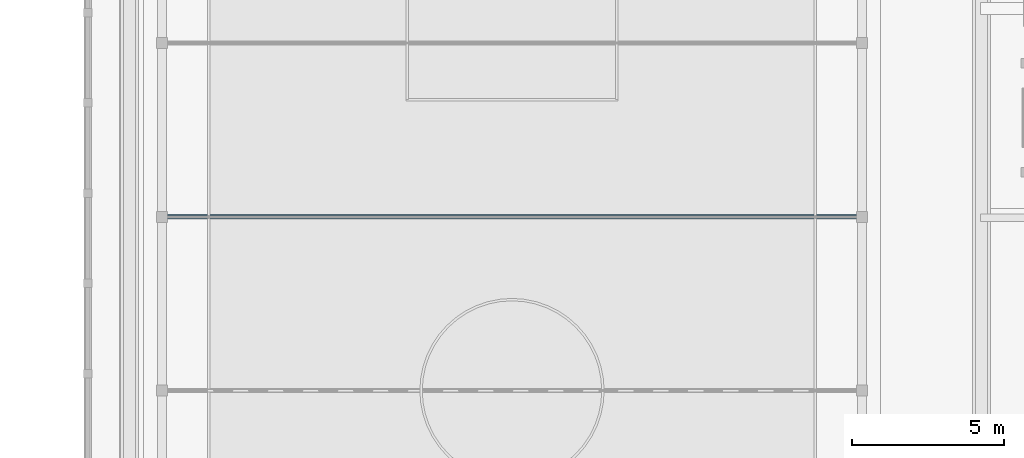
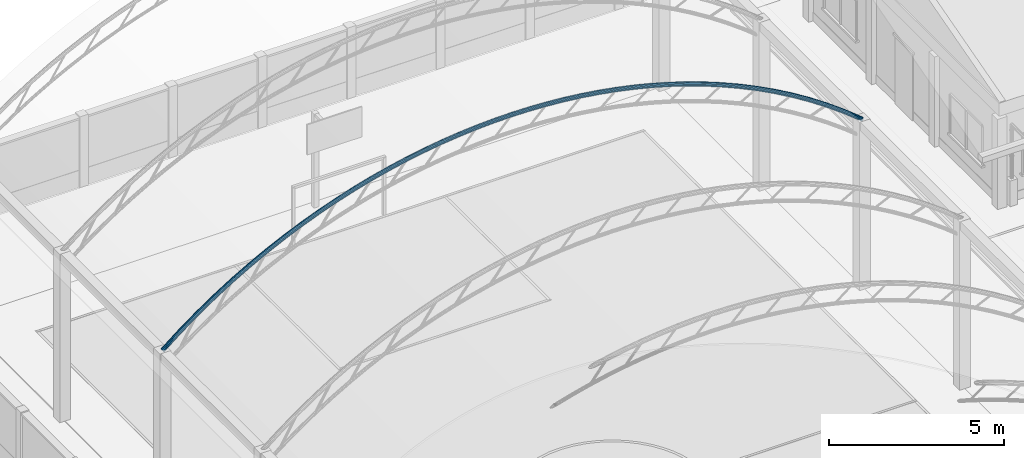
# One storey, part 27 of 177: 1 beam.
"""IFC4 building model written with IfcOpenShell, lengths in metres."""

from ifc_helpers import new_model, si_unit, origin, origin_with_axes, place, context, subcontext, project, spatial, triangles, element, save


model = new_model("IFC4")

# Units and contexts
model_context = context("Model", 3, precision=1e-05, world=origin_with_axes())
body_context = subcontext(model_context, "Body", "Model", "MODEL_VIEW")
ifc_project = project(units=[si_unit("LENGTHUNIT", "METRE"), si_unit("AREAUNIT", "SQUARE_METRE"), si_unit("VOLUMEUNIT", "CUBIC_METRE"), si_unit("PLANEANGLEUNIT", "RADIAN")], contexts=[model_context])

# Site, building, storey
site_placement = place(None, origin_with_axes())
site = spatial("IfcSite", under=ifc_project, at=site_placement, Name="Predio Los Mangos - Morales, San Martín", CompositionType="ELEMENT")
building_placement = place(site_placement, origin())
building = spatial("IfcBuilding", under=site, at=building_placement, Name="Hogar de Refugio Temporal", CompositionType="ELEMENT")
storey_placement = place(building_placement, origin())
storey = spatial("IfcBuildingStorey", under=building, at=storey_placement, Name="NIVEL 1 (NPT +0.00)", CompositionType="ELEMENT", Elevation=0.0)

# Beam
beam_placement = place(storey_placement, origin())
element("IfcBeam", 1, at=beam_placement, inside=storey, Name="arco", ObjectType="Viga", PredefinedType="BEAM", context=body_context, shape_type="Tessellation", body=[
    triangles([(3.4781, 115.594, 5.9773), (3.462, 115.5683, 5.9973), (3.4562, 115.5333, 6.0046), (3.462, 115.4983, 5.9973), (3.4781, 115.4727, 5.9773), (3.5, 115.4633, 5.95), (3.5219, 115.4727, 5.9227), (3.538, 115.4983, 5.9027), (3.5438, 115.5333, 5.8954), (3.538, 115.5683, 5.9027), (3.5219, 115.594, 5.9227), (3.5, 115.6033, 5.95), (4.0561, 115.594, 6.4418), (4.0405, 115.5683, 6.4621), (4.0348, 115.5333, 6.4695), (4.0405, 115.4983, 6.4621), (4.0561, 115.4727, 6.4418), (4.0775, 115.4633, 6.4141), (4.0989, 115.4727, 6.3864), (4.1145, 115.4983, 6.3661), (4.1202, 115.5333, 6.3586), (4.1145, 115.5683, 6.3661), (4.0989, 115.594, 6.3864), (4.0775, 115.6033, 6.4141), (4.6348, 115.594, 6.8694), (4.6199, 115.5683, 6.8903), (4.6145, 115.5333, 6.8979), (4.6199, 115.4983, 6.8903), (4.6348, 115.4727, 6.8694), (4.655, 115.4633, 6.8408), (4.6752, 115.4727, 6.8123), (4.6901, 115.4983, 6.7914), (4.6955, 115.5333, 6.7837), (4.6901, 115.5683, 6.7914), (4.6752, 115.594, 6.8123), (4.655, 115.6033, 6.8408), (5.2134, 115.594, 7.2627), (5.1994, 115.5683, 7.2841), (5.1943, 115.5333, 7.292), (5.1994, 115.4983, 7.2841), (5.2134, 115.4727, 7.2627), (5.2325, 115.4633, 7.2333), (5.2516, 115.4727, 7.204), (5.2656, 115.4983, 7.1826), (5.2707, 115.5333, 7.1747), (5.2656, 115.5683, 7.1826), (5.2516, 115.594, 7.204), (5.2325, 115.6033, 7.2333), (5.792, 115.594, 7.6243), (5.7788, 115.5683, 7.6463), (5.774, 115.5333, 7.6543), (5.7788, 115.4983, 7.6463), (5.792, 115.4727, 7.6243), (5.81, 115.4633, 7.5943), (5.828, 115.4727, 7.5643), (5.8412, 115.4983, 7.5423), (5.846, 115.5333, 7.5343), (5.8412, 115.5683, 7.5423), (5.828, 115.594, 7.5643), (5.81, 115.6033, 7.5943), (6.3706, 115.594, 7.9565), (6.3583, 115.5683, 7.979), (6.3538, 115.5333, 7.9872), (6.3583, 115.4983, 7.979), (6.3706, 115.4727, 7.9565), (6.3875, 115.4633, 7.9259), (6.4044, 115.4727, 7.8952), (6.4167, 115.4983, 7.8727), (6.4212, 115.5333, 7.8645), (6.4167, 115.5683, 7.8727), (6.4044, 115.594, 7.8952), (6.3875, 115.6033, 7.9259), (6.9493, 115.594, 8.2611), (6.9377, 115.5683, 8.284), (6.9335, 115.5333, 8.2923), (6.9377, 115.4983, 8.284), (6.9493, 115.4727, 8.2611), (6.965, 115.4633, 8.2298), (6.9807, 115.4727, 8.1986), (6.9923, 115.4983, 8.1757), (6.9965, 115.5333, 8.1673), (6.9923, 115.5683, 8.1757), (6.9807, 115.594, 8.1986), (6.965, 115.6033, 8.2298), (7.5279, 115.594, 8.5395), (7.5172, 115.5683, 8.5628), (7.5133, 115.5333, 8.5713), (7.5172, 115.4983, 8.5628), (7.5279, 115.4727, 8.5395), (7.5425, 115.4633, 8.5077), (7.5571, 115.4727, 8.4759), (7.5678, 115.4983, 8.4527), (7.5717, 115.5333, 8.4441), (7.5678, 115.5683, 8.4527), (7.5571, 115.594, 8.4759), (7.5425, 115.6033, 8.5077), (8.1065, 115.594, 8.7932), (8.0966, 115.5683, 8.8169), (8.093, 115.5333, 8.8255), (8.0966, 115.4983, 8.8169), (8.1065, 115.4727, 8.7932), (8.12, 115.4633, 8.7609), (8.1335, 115.4727, 8.7286), (8.1434, 115.4983, 8.705), (8.147, 115.5333, 8.6963), (8.1434, 115.5683, 8.705), (8.1335, 115.594, 8.7286), (8.12, 115.6033, 8.7609), (8.6851, 115.594, 9.0232), (8.6761, 115.5683, 9.0472), (8.6728, 115.5333, 9.056), (8.6761, 115.4983, 9.0472), (8.6851, 115.4727, 9.0232), (8.6975, 115.4633, 8.9905), (8.7099, 115.4727, 8.9578), (8.7189, 115.4983, 8.9338), (8.7222, 115.5333, 8.925), (8.7189, 115.5683, 8.9338), (8.7099, 115.594, 8.9578), (8.6975, 115.6033, 8.9905), (9.2638, 115.594, 9.2305), (9.2555, 115.5683, 9.2548), (9.2525, 115.5333, 9.2637), (9.2555, 115.4983, 9.2548), (9.2638, 115.4727, 9.2305), (9.275, 115.4633, 9.1974), (9.2862, 115.4727, 9.1642), (9.2945, 115.4983, 9.14), (9.2975, 115.5333, 9.1311), (9.2945, 115.5683, 9.14), (9.2862, 115.594, 9.1642), (9.275, 115.6033, 9.1974), (9.8424, 115.594, 9.416), (9.835, 115.5683, 9.4405), (9.8323, 115.5333, 9.4495), (9.835, 115.4983, 9.4405), (9.8424, 115.4727, 9.416), (9.8525, 115.4633, 9.3824), (9.8626, 115.4727, 9.3489), (9.87, 115.4983, 9.3244), (9.8727, 115.5333, 9.3154), (9.87, 115.5683, 9.3244), (9.8626, 115.594, 9.3489), (9.8525, 115.6033, 9.3824), (10.421, 115.594, 9.5802), (10.4144, 115.5683, 9.6049), (10.412, 115.5333, 9.614), (10.4144, 115.4983, 9.6049), (10.421, 115.4727, 9.5802), (10.43, 115.4633, 9.5463), (10.439, 115.4727, 9.5125), (10.4456, 115.4983, 9.4878), (10.448, 115.5333, 9.4787), (10.4456, 115.5683, 9.4878), (10.439, 115.594, 9.5125), (10.43, 115.6033, 9.5463), (10.9996, 115.594, 9.7238), (10.9939, 115.5683, 9.7488), (10.9918, 115.5333, 9.7579), (10.9939, 115.4983, 9.7488), (10.9996, 115.4727, 9.7238), (11.0075, 115.4633, 9.6897), (11.0154, 115.4727, 9.6556), (11.0211, 115.4983, 9.6306), (11.0232, 115.5333, 9.6215), (11.0211, 115.5683, 9.6306), (11.0154, 115.594, 9.6556), (11.0075, 115.6033, 9.6897), (11.5783, 115.594, 9.8473), (11.5733, 115.5683, 9.8725), (11.5715, 115.5333, 9.8817), (11.5733, 115.4983, 9.8725), (11.5783, 115.4727, 9.8473), (11.585, 115.4633, 9.813), (11.5917, 115.4727, 9.7786), (11.5967, 115.4983, 9.7535), (11.5985, 115.5333, 9.7443), (11.5967, 115.5683, 9.7535), (11.5917, 115.594, 9.7786), (11.585, 115.6033, 9.813), (12.1569, 115.594, 9.9512), (12.1528, 115.5683, 9.9765), (12.1513, 115.5333, 9.9857), (12.1528, 115.4983, 9.9765), (12.1569, 115.4727, 9.9512), (12.1625, 115.4633, 9.9166), (12.1681, 115.4727, 9.8821), (12.1722, 115.4983, 9.8568), (12.1737, 115.5333, 9.8476), (12.1722, 115.5683, 9.8568), (12.1681, 115.594, 9.8821), (12.1625, 115.6033, 9.9166), (12.7355, 115.594, 10.0357), (12.7322, 115.5683, 10.0611), (12.731, 115.5333, 10.0704), (12.7322, 115.4983, 10.0611), (12.7355, 115.4727, 10.0357), (12.74, 115.4633, 10.001), (12.7445, 115.4727, 9.9663), (12.7478, 115.4983, 9.9409), (12.749, 115.5333, 9.9316), (12.7478, 115.5683, 9.9409), (12.7445, 115.594, 9.9663), (12.74, 115.6033, 10.001), (13.3141, 115.594, 10.1012), (13.3117, 115.5683, 10.1267), (13.3108, 115.5333, 10.136), (13.3117, 115.4983, 10.1267), (13.3141, 115.4727, 10.1012), (13.3175, 115.4633, 10.0663), (13.3209, 115.4727, 10.0315), (13.3233, 115.4983, 10.006), (13.3242, 115.5333, 9.9967), (13.3233, 115.5683, 10.006), (13.3209, 115.594, 10.0315), (13.3175, 115.6033, 10.0663), (13.8928, 115.594, 10.1478), (13.8911, 115.5683, 10.1734), (13.8905, 115.5333, 10.1827), (13.8911, 115.4983, 10.1734), (13.8928, 115.4727, 10.1478), (13.895, 115.4633, 10.1129), (13.8972, 115.4727, 10.0779), (13.8989, 115.4983, 10.0524), (13.8995, 115.5333, 10.043), (13.8989, 115.5683, 10.0524), (13.8972, 115.594, 10.0779), (13.895, 115.6033, 10.1129), (14.4714, 115.594, 10.1757), (14.4706, 115.5683, 10.2013), (14.4703, 115.5333, 10.2107), (14.4706, 115.4983, 10.2013), (14.4714, 115.4727, 10.1757), (14.4725, 115.4633, 10.1407), (14.4736, 115.4727, 10.1057), (14.4744, 115.4983, 10.0801), (14.4747, 115.5333, 10.0708), (14.4744, 115.5683, 10.0801), (14.4736, 115.594, 10.1057), (14.4725, 115.6033, 10.1407), (15.05, 115.594, 10.185), (15.05, 115.5683, 10.2106), (15.05, 115.5333, 10.22), (15.05, 115.4983, 10.2106), (15.05, 115.4727, 10.185), (15.05, 115.4633, 10.15), (15.05, 115.4727, 10.115), (15.05, 115.4983, 10.0894), (15.05, 115.5333, 10.08), (15.05, 115.5683, 10.0894), (15.05, 115.594, 10.115), (15.05, 115.6033, 10.15), (15.6286, 115.594, 10.1757), (15.6294, 115.5683, 10.2013), (15.6297, 115.5333, 10.2107), (15.6294, 115.4983, 10.2013), (15.6286, 115.4727, 10.1757), (15.6275, 115.4633, 10.1407), (15.6264, 115.4727, 10.1057), (15.6256, 115.4983, 10.0801), (15.6253, 115.5333, 10.0708), (15.6256, 115.5683, 10.0801), (15.6264, 115.594, 10.1057), (15.6275, 115.6033, 10.1407), (16.2072, 115.594, 10.1478), (16.2089, 115.5683, 10.1734), (16.2095, 115.5333, 10.1827), (16.2089, 115.4983, 10.1734), (16.2072, 115.4727, 10.1478), (16.205, 115.4633, 10.1129), (16.2028, 115.4727, 10.0779), (16.2011, 115.4983, 10.0524), (16.2005, 115.5333, 10.043), (16.2011, 115.5683, 10.0524), (16.2028, 115.594, 10.0779), (16.205, 115.6033, 10.1129), (16.7859, 115.594, 10.1012), (16.7883, 115.5683, 10.1267), (16.7892, 115.5333, 10.136), (16.7883, 115.4983, 10.1267), (16.7859, 115.4727, 10.1012), (16.7825, 115.4633, 10.0663), (16.7791, 115.4727, 10.0315), (16.7767, 115.4983, 10.006), (16.7758, 115.5333, 9.9967), (16.7767, 115.5683, 10.006), (16.7791, 115.594, 10.0315), (16.7825, 115.6033, 10.0663), (17.3645, 115.594, 10.0357), (17.3678, 115.5683, 10.0611), (17.369, 115.5333, 10.0704), (17.3678, 115.4983, 10.0611), (17.3645, 115.4727, 10.0357), (17.36, 115.4633, 10.001), (17.3555, 115.4727, 9.9663), (17.3522, 115.4983, 9.9409), (17.351, 115.5333, 9.9316), (17.3522, 115.5683, 9.9409), (17.3555, 115.594, 9.9663), (17.36, 115.6033, 10.001), (17.9431, 115.594, 9.9512), (17.9472, 115.5683, 9.9765), (17.9487, 115.5333, 9.9857), (17.9472, 115.4983, 9.9765), (17.9431, 115.4727, 9.9512), (17.9375, 115.4633, 9.9166), (17.9319, 115.4727, 9.8821), (17.9278, 115.4983, 9.8568), (17.9263, 115.5333, 9.8476), (17.9278, 115.5683, 9.8568), (17.9319, 115.594, 9.8821), (17.9375, 115.6033, 9.9166), (18.5217, 115.594, 9.8473), (18.5267, 115.5683, 9.8725), (18.5285, 115.5333, 9.8817), (18.5267, 115.4983, 9.8725), (18.5217, 115.4727, 9.8473), (18.515, 115.4633, 9.813), (18.5083, 115.4727, 9.7786), (18.5033, 115.4983, 9.7535), (18.5015, 115.5333, 9.7443), (18.5033, 115.5683, 9.7535), (18.5083, 115.594, 9.7786), (18.515, 115.6033, 9.813), (19.1004, 115.594, 9.7238), (19.1061, 115.5683, 9.7488), (19.1082, 115.5333, 9.7579), (19.1061, 115.4983, 9.7488), (19.1004, 115.4727, 9.7238), (19.0925, 115.4633, 9.6897), (19.0846, 115.4727, 9.6556), (19.0789, 115.4983, 9.6306), (19.0768, 115.5333, 9.6215), (19.0789, 115.5683, 9.6306), (19.0846, 115.594, 9.6556), (19.0925, 115.6033, 9.6897), (19.679, 115.594, 9.5802), (19.6856, 115.5683, 9.6049), (19.688, 115.5333, 9.614), (19.6856, 115.4983, 9.6049), (19.679, 115.4727, 9.5802), (19.67, 115.4633, 9.5463), (19.661, 115.4727, 9.5125), (19.6544, 115.4983, 9.4878), (19.652, 115.5333, 9.4787), (19.6544, 115.5683, 9.4878), (19.661, 115.594, 9.5125), (19.67, 115.6033, 9.5463), (20.2576, 115.594, 9.416), (20.265, 115.5683, 9.4405), (20.2677, 115.5333, 9.4495), (20.265, 115.4983, 9.4405), (20.2576, 115.4727, 9.416), (20.2475, 115.4633, 9.3824), (20.2374, 115.4727, 9.3489), (20.23, 115.4983, 9.3244), (20.2273, 115.5333, 9.3154), (20.23, 115.5683, 9.3244), (20.2374, 115.594, 9.3489), (20.2475, 115.6033, 9.3824), (20.8362, 115.594, 9.2305), (20.8445, 115.5683, 9.2548), (20.8475, 115.5333, 9.2637), (20.8445, 115.4983, 9.2548), (20.8362, 115.4727, 9.2305), (20.825, 115.4633, 9.1974), (20.8138, 115.4727, 9.1642), (20.8055, 115.4983, 9.14), (20.8025, 115.5333, 9.1311), (20.8055, 115.5683, 9.14), (20.8138, 115.594, 9.1642), (20.825, 115.6033, 9.1974), (21.4149, 115.594, 9.0232), (21.4239, 115.5683, 9.0472), (21.4272, 115.5333, 9.056), (21.4239, 115.4983, 9.0472), (21.4149, 115.4727, 9.0232), (21.4025, 115.4633, 8.9905), (21.3901, 115.4727, 8.9578), (21.3811, 115.4983, 8.9338), (21.3778, 115.5333, 8.925), (21.3811, 115.5683, 8.9338), (21.3901, 115.594, 8.9578), (21.4025, 115.6033, 8.9905), (21.9935, 115.594, 8.7932), (22.0034, 115.5683, 8.8169), (22.007, 115.5333, 8.8255), (22.0034, 115.4983, 8.8169), (21.9935, 115.4727, 8.7932), (21.98, 115.4633, 8.7609), (21.9665, 115.4727, 8.7286), (21.9566, 115.4983, 8.705), (21.953, 115.5333, 8.6963), (21.9566, 115.5683, 8.705), (21.9665, 115.594, 8.7286), (21.98, 115.6033, 8.7609), (22.5721, 115.594, 8.5395), (22.5828, 115.5683, 8.5628), (22.5867, 115.5333, 8.5713), (22.5828, 115.4983, 8.5628), (22.5721, 115.4727, 8.5395), (22.5575, 115.4633, 8.5077), (22.5429, 115.4727, 8.4759), (22.5322, 115.4983, 8.4527), (22.5283, 115.5333, 8.4441), (22.5322, 115.5683, 8.4527), (22.5429, 115.594, 8.4759), (22.5575, 115.6033, 8.5077), (23.1507, 115.594, 8.2611), (23.1623, 115.5683, 8.284), (23.1665, 115.5333, 8.2923), (23.1623, 115.4983, 8.284), (23.1507, 115.4727, 8.2611), (23.135, 115.4633, 8.2298), (23.1193, 115.4727, 8.1986), (23.1077, 115.4983, 8.1757), (23.1035, 115.5333, 8.1673), (23.1077, 115.5683, 8.1757), (23.1193, 115.594, 8.1986), (23.135, 115.6033, 8.2298), (23.7294, 115.594, 7.9565), (23.7417, 115.5683, 7.979), (23.7462, 115.5333, 7.9872), (23.7417, 115.4983, 7.979), (23.7294, 115.4727, 7.9565), (23.7125, 115.4633, 7.9259), (23.6956, 115.4727, 7.8952), (23.6833, 115.4983, 7.8727), (23.6788, 115.5333, 7.8645), (23.6833, 115.5683, 7.8727), (23.6956, 115.594, 7.8952), (23.7125, 115.6033, 7.9259), (24.308, 115.594, 7.6243), (24.3212, 115.5683, 7.6463), (24.326, 115.5333, 7.6543), (24.3212, 115.4983, 7.6463), (24.308, 115.4727, 7.6243), (24.29, 115.4633, 7.5943), (24.272, 115.4727, 7.5643), (24.2588, 115.4983, 7.5423), (24.254, 115.5333, 7.5343), (24.2588, 115.5683, 7.5423), (24.272, 115.594, 7.5643), (24.29, 115.6033, 7.5943), (24.8866, 115.594, 7.2627), (24.9006, 115.5683, 7.2841), (24.9057, 115.5333, 7.292), (24.9006, 115.4983, 7.2841), (24.8866, 115.4727, 7.2627), (24.8675, 115.4633, 7.2333), (24.8484, 115.4727, 7.204), (24.8344, 115.4983, 7.1826), (24.8293, 115.5333, 7.1747), (24.8344, 115.5683, 7.1826), (24.8484, 115.594, 7.204), (24.8675, 115.6033, 7.2333), (25.4652, 115.594, 6.8694), (25.4801, 115.5683, 6.8903), (25.4855, 115.5333, 6.8979), (25.4801, 115.4983, 6.8903), (25.4652, 115.4727, 6.8694), (25.445, 115.4633, 6.8408), (25.4248, 115.4727, 6.8123), (25.4099, 115.4983, 6.7914), (25.4045, 115.5333, 6.7837), (25.4099, 115.5683, 6.7914), (25.4248, 115.594, 6.8123), (25.445, 115.6033, 6.8408), (26.0439, 115.594, 6.4418), (26.0595, 115.5683, 6.4621), (26.0652, 115.5333, 6.4695), (26.0595, 115.4983, 6.4621), (26.0439, 115.4727, 6.4418), (26.0225, 115.4633, 6.4141), (26.0011, 115.4727, 6.3864), (25.9855, 115.4983, 6.3661), (25.9798, 115.5333, 6.3586), (25.9855, 115.5683, 6.3661), (26.0011, 115.594, 6.3864), (26.0225, 115.6033, 6.4141), (26.6219, 115.594, 5.9773), (26.638, 115.5683, 5.9973), (26.6438, 115.5333, 6.0046), (26.638, 115.4983, 5.9973), (26.6219, 115.4727, 5.9773), (26.6, 115.4633, 5.95), (26.5781, 115.4727, 5.9227), (26.562, 115.4983, 5.9027), (26.5562, 115.5333, 5.8954), (26.562, 115.5683, 5.9027), (26.5781, 115.594, 5.9227), (26.6, 115.6033, 5.95)], [[1, 13, 24], [1, 24, 12], [2, 14, 13], [2, 13, 1], [3, 15, 14], [3, 14, 2], [4, 16, 15], [4, 15, 3], [5, 17, 16], [5, 16, 4], [6, 18, 17], [6, 17, 5], [7, 19, 18], [7, 18, 6], [8, 20, 19], [8, 19, 7], [9, 21, 20], [9, 20, 8], [10, 22, 21], [10, 21, 9], [11, 23, 22], [11, 22, 10], [12, 24, 23], [12, 23, 11], [13, 25, 36], [13, 36, 24], [14, 26, 25], [14, 25, 13], [15, 27, 26], [15, 26, 14], [16, 28, 27], [16, 27, 15], [17, 29, 28], [17, 28, 16], [18, 30, 29], [18, 29, 17], [19, 31, 30], [19, 30, 18], [20, 32, 31], [20, 31, 19], [21, 33, 32], [21, 32, 20], [22, 34, 33], [22, 33, 21], [23, 35, 34], [23, 34, 22], [24, 36, 35], [24, 35, 23], [25, 37, 48], [25, 48, 36], [26, 38, 37], [26, 37, 25], [27, 39, 38], [27, 38, 26], [28, 40, 39], [28, 39, 27], [29, 41, 40], [29, 40, 28], [30, 42, 41], [30, 41, 29], [31, 43, 42], [31, 42, 30], [32, 44, 43], [32, 43, 31], [33, 45, 44], [33, 44, 32], [34, 46, 45], [34, 45, 33], [35, 47, 46], [35, 46, 34], [36, 48, 47], [36, 47, 35], [37, 49, 60], [37, 60, 48], [38, 50, 49], [38, 49, 37], [39, 51, 50], [39, 50, 38], [40, 52, 51], [40, 51, 39], [41, 53, 52], [41, 52, 40], [42, 54, 53], [42, 53, 41], [43, 55, 54], [43, 54, 42], [44, 56, 55], [44, 55, 43], [45, 57, 56], [45, 56, 44], [46, 58, 57], [46, 57, 45], [47, 59, 58], [47, 58, 46], [48, 60, 59], [48, 59, 47], [49, 61, 72], [49, 72, 60], [50, 62, 61], [50, 61, 49], [51, 63, 62], [51, 62, 50], [52, 64, 63], [52, 63, 51], [53, 65, 64], [53, 64, 52], [54, 66, 65], [54, 65, 53], [55, 67, 66], [55, 66, 54], [56, 68, 67], [56, 67, 55], [57, 69, 68], [57, 68, 56], [58, 70, 69], [58, 69, 57], [59, 71, 70], [59, 70, 58], [60, 72, 71], [60, 71, 59], [61, 73, 84], [61, 84, 72], [62, 74, 73], [62, 73, 61], [63, 75, 74], [63, 74, 62], [64, 76, 75], [64, 75, 63], [65, 77, 76], [65, 76, 64], [66, 78, 77], [66, 77, 65], [67, 79, 78], [67, 78, 66], [68, 80, 79], [68, 79, 67], [69, 81, 80], [69, 80, 68], [70, 82, 81], [70, 81, 69], [71, 83, 82], [71, 82, 70], [72, 84, 83], [72, 83, 71], [73, 85, 96], [73, 96, 84], [74, 86, 85], [74, 85, 73], [75, 87, 86], [75, 86, 74], [76, 88, 87], [76, 87, 75], [77, 89, 88], [77, 88, 76], [78, 90, 89], [78, 89, 77], [79, 91, 90], [79, 90, 78], [80, 92, 91], [80, 91, 79], [81, 93, 92], [81, 92, 80], [82, 94, 93], [82, 93, 81], [83, 95, 94], [83, 94, 82], [84, 96, 95], [84, 95, 83], [85, 97, 108], [85, 108, 96], [86, 98, 97], [86, 97, 85], [87, 99, 98], [87, 98, 86], [88, 100, 99], [88, 99, 87], [89, 101, 100], [89, 100, 88], [90, 102, 101], [90, 101, 89], [91, 103, 102], [91, 102, 90], [92, 104, 103], [92, 103, 91], [93, 105, 104], [93, 104, 92], [94, 106, 105], [94, 105, 93], [95, 107, 106], [95, 106, 94], [96, 108, 107], [96, 107, 95], [97, 109, 120], [97, 120, 108], [98, 110, 109], [98, 109, 97], [99, 111, 110], [99, 110, 98], [100, 112, 111], [100, 111, 99], [101, 113, 112], [101, 112, 100], [102, 114, 113], [102, 113, 101], [103, 115, 114], [103, 114, 102], [104, 116, 115], [104, 115, 103], [105, 117, 116], [105, 116, 104], [106, 118, 117], [106, 117, 105], [107, 119, 118], [107, 118, 106], [108, 120, 119], [108, 119, 107], [109, 121, 132], [109, 132, 120], [110, 122, 121], [110, 121, 109], [111, 123, 122], [111, 122, 110], [112, 124, 123], [112, 123, 111], [113, 125, 124], [113, 124, 112], [114, 126, 125], [114, 125, 113], [115, 127, 126], [115, 126, 114], [116, 128, 127], [116, 127, 115], [117, 129, 128], [117, 128, 116], [118, 130, 129], [118, 129, 117], [119, 131, 130], [119, 130, 118], [120, 132, 131], [120, 131, 119], [121, 133, 144], [121, 144, 132], [122, 134, 133], [122, 133, 121], [123, 135, 134], [123, 134, 122], [124, 136, 135], [124, 135, 123], [125, 137, 136], [125, 136, 124], [126, 138, 137], [126, 137, 125], [127, 139, 138], [127, 138, 126], [128, 140, 139], [128, 139, 127], [129, 141, 140], [129, 140, 128], [130, 142, 141], [130, 141, 129], [131, 143, 142], [131, 142, 130], [132, 144, 143], [132, 143, 131], [133, 145, 156], [133, 156, 144], [134, 146, 145], [134, 145, 133], [135, 147, 146], [135, 146, 134], [136, 148, 147], [136, 147, 135], [137, 149, 148], [137, 148, 136], [138, 150, 149], [138, 149, 137], [139, 151, 150], [139, 150, 138], [140, 152, 151], [140, 151, 139], [141, 153, 152], [141, 152, 140], [142, 154, 153], [142, 153, 141], [143, 155, 154], [143, 154, 142], [144, 156, 155], [144, 155, 143], [145, 157, 168], [145, 168, 156], [146, 158, 157], [146, 157, 145], [147, 159, 158], [147, 158, 146], [148, 160, 159], [148, 159, 147], [149, 161, 160], [149, 160, 148], [150, 162, 161], [150, 161, 149], [151, 163, 162], [151, 162, 150], [152, 164, 163], [152, 163, 151], [153, 165, 164], [153, 164, 152], [154, 166, 165], [154, 165, 153], [155, 167, 166], [155, 166, 154], [156, 168, 167], [156, 167, 155], [157, 169, 180], [157, 180, 168], [158, 170, 169], [158, 169, 157], [159, 171, 170], [159, 170, 158], [160, 172, 171], [160, 171, 159], [161, 173, 172], [161, 172, 160], [162, 174, 173], [162, 173, 161], [163, 175, 174], [163, 174, 162], [164, 176, 175], [164, 175, 163], [165, 177, 176], [165, 176, 164], [166, 178, 177], [166, 177, 165], [167, 179, 178], [167, 178, 166], [168, 180, 179], [168, 179, 167], [169, 181, 192], [169, 192, 180], [170, 182, 181], [170, 181, 169], [171, 183, 182], [171, 182, 170], [172, 184, 183], [172, 183, 171], [173, 185, 184], [173, 184, 172], [174, 186, 185], [174, 185, 173], [175, 187, 186], [175, 186, 174], [176, 188, 187], [176, 187, 175], [177, 189, 188], [177, 188, 176], [178, 190, 189], [178, 189, 177], [179, 191, 190], [179, 190, 178], [180, 192, 191], [180, 191, 179], [181, 193, 204], [181, 204, 192], [182, 194, 193], [182, 193, 181], [183, 195, 194], [183, 194, 182], [184, 196, 195], [184, 195, 183], [185, 197, 196], [185, 196, 184], [186, 198, 197], [186, 197, 185], [187, 199, 198], [187, 198, 186], [188, 200, 199], [188, 199, 187], [189, 201, 200], [189, 200, 188], [190, 202, 201], [190, 201, 189], [191, 203, 202], [191, 202, 190], [192, 204, 203], [192, 203, 191], [193, 205, 216], [193, 216, 204], [194, 206, 205], [194, 205, 193], [195, 207, 206], [195, 206, 194], [196, 208, 207], [196, 207, 195], [197, 209, 208], [197, 208, 196], [198, 210, 209], [198, 209, 197], [199, 211, 210], [199, 210, 198], [200, 212, 211], [200, 211, 199], [201, 213, 212], [201, 212, 200], [202, 214, 213], [202, 213, 201], [203, 215, 214], [203, 214, 202], [204, 216, 215], [204, 215, 203], [205, 217, 228], [205, 228, 216], [206, 218, 217], [206, 217, 205], [207, 219, 218], [207, 218, 206], [208, 220, 219], [208, 219, 207], [209, 221, 220], [209, 220, 208], [210, 222, 221], [210, 221, 209], [211, 223, 222], [211, 222, 210], [212, 224, 223], [212, 223, 211], [213, 225, 224], [213, 224, 212], [214, 226, 225], [214, 225, 213], [215, 227, 226], [215, 226, 214], [216, 228, 227], [216, 227, 215], [217, 229, 240], [217, 240, 228], [218, 230, 229], [218, 229, 217], [219, 231, 230], [219, 230, 218], [220, 232, 231], [220, 231, 219], [221, 233, 232], [221, 232, 220], [222, 234, 233], [222, 233, 221], [223, 235, 234], [223, 234, 222], [224, 236, 235], [224, 235, 223], [225, 237, 236], [225, 236, 224], [226, 238, 237], [226, 237, 225], [227, 239, 238], [227, 238, 226], [228, 240, 239], [228, 239, 227], [229, 241, 252], [229, 252, 240], [230, 242, 241], [230, 241, 229], [231, 243, 242], [231, 242, 230], [232, 244, 243], [232, 243, 231], [233, 245, 244], [233, 244, 232], [234, 246, 245], [234, 245, 233], [235, 247, 246], [235, 246, 234], [236, 248, 247], [236, 247, 235], [237, 249, 248], [237, 248, 236], [238, 250, 249], [238, 249, 237], [239, 251, 250], [239, 250, 238], [240, 252, 251], [240, 251, 239], [241, 253, 264], [241, 264, 252], [242, 254, 253], [242, 253, 241], [243, 255, 254], [243, 254, 242], [244, 256, 255], [244, 255, 243], [245, 257, 256], [245, 256, 244], [246, 258, 257], [246, 257, 245], [247, 259, 258], [247, 258, 246], [248, 260, 259], [248, 259, 247], [249, 261, 260], [249, 260, 248], [250, 262, 261], [250, 261, 249], [251, 263, 262], [251, 262, 250], [252, 264, 263], [252, 263, 251], [253, 265, 276], [253, 276, 264], [254, 266, 265], [254, 265, 253], [255, 267, 266], [255, 266, 254], [256, 268, 267], [256, 267, 255], [257, 269, 268], [257, 268, 256], [258, 270, 269], [258, 269, 257], [259, 271, 270], [259, 270, 258], [260, 272, 271], [260, 271, 259], [261, 273, 272], [261, 272, 260], [262, 274, 273], [262, 273, 261], [263, 275, 274], [263, 274, 262], [264, 276, 275], [264, 275, 263], [265, 277, 288], [265, 288, 276], [266, 278, 277], [266, 277, 265], [267, 279, 278], [267, 278, 266], [268, 280, 279], [268, 279, 267], [269, 281, 280], [269, 280, 268], [270, 282, 281], [270, 281, 269], [271, 283, 282], [271, 282, 270], [272, 284, 283], [272, 283, 271], [273, 285, 284], [273, 284, 272], [274, 286, 285], [274, 285, 273], [275, 287, 286], [275, 286, 274], [276, 288, 287], [276, 287, 275], [277, 289, 300], [277, 300, 288], [278, 290, 289], [278, 289, 277], [279, 291, 290], [279, 290, 278], [280, 292, 291], [280, 291, 279], [281, 293, 292], [281, 292, 280], [282, 294, 293], [282, 293, 281], [283, 295, 294], [283, 294, 282], [284, 296, 295], [284, 295, 283], [285, 297, 296], [285, 296, 284], [286, 298, 297], [286, 297, 285], [287, 299, 298], [287, 298, 286], [288, 300, 299], [288, 299, 287], [289, 301, 312], [289, 312, 300], [290, 302, 301], [290, 301, 289], [291, 303, 302], [291, 302, 290], [292, 304, 303], [292, 303, 291], [293, 305, 304], [293, 304, 292], [294, 306, 305], [294, 305, 293], [295, 307, 306], [295, 306, 294], [296, 308, 307], [296, 307, 295], [297, 309, 308], [297, 308, 296], [298, 310, 309], [298, 309, 297], [299, 311, 310], [299, 310, 298], [300, 312, 311], [300, 311, 299], [301, 313, 324], [301, 324, 312], [302, 314, 313], [302, 313, 301], [303, 315, 314], [303, 314, 302], [304, 316, 315], [304, 315, 303], [305, 317, 316], [305, 316, 304], [306, 318, 317], [306, 317, 305], [307, 319, 318], [307, 318, 306], [308, 320, 319], [308, 319, 307], [309, 321, 320], [309, 320, 308], [310, 322, 321], [310, 321, 309], [311, 323, 322], [311, 322, 310], [312, 324, 323], [312, 323, 311], [313, 325, 336], [313, 336, 324], [314, 326, 325], [314, 325, 313], [315, 327, 326], [315, 326, 314], [316, 328, 327], [316, 327, 315], [317, 329, 328], [317, 328, 316], [318, 330, 329], [318, 329, 317], [319, 331, 330], [319, 330, 318], [320, 332, 331], [320, 331, 319], [321, 333, 332], [321, 332, 320], [322, 334, 333], [322, 333, 321], [323, 335, 334], [323, 334, 322], [324, 336, 335], [324, 335, 323], [325, 337, 348], [325, 348, 336], [326, 338, 337], [326, 337, 325], [327, 339, 338], [327, 338, 326], [328, 340, 339], [328, 339, 327], [329, 341, 340], [329, 340, 328], [330, 342, 341], [330, 341, 329], [331, 343, 342], [331, 342, 330], [332, 344, 343], [332, 343, 331], [333, 345, 344], [333, 344, 332], [334, 346, 345], [334, 345, 333], [335, 347, 346], [335, 346, 334], [336, 348, 347], [336, 347, 335], [337, 349, 360], [337, 360, 348], [338, 350, 349], [338, 349, 337], [339, 351, 350], [339, 350, 338], [340, 352, 351], [340, 351, 339], [341, 353, 352], [341, 352, 340], [342, 354, 353], [342, 353, 341], [343, 355, 354], [343, 354, 342], [344, 356, 355], [344, 355, 343], [345, 357, 356], [345, 356, 344], [346, 358, 357], [346, 357, 345], [347, 359, 358], [347, 358, 346], [348, 360, 359], [348, 359, 347], [349, 361, 372], [349, 372, 360], [350, 362, 361], [350, 361, 349], [351, 363, 362], [351, 362, 350], [352, 364, 363], [352, 363, 351], [353, 365, 364], [353, 364, 352], [354, 366, 365], [354, 365, 353], [355, 367, 366], [355, 366, 354], [356, 368, 367], [356, 367, 355], [357, 369, 368], [357, 368, 356], [358, 370, 369], [358, 369, 357], [359, 371, 370], [359, 370, 358], [360, 372, 371], [360, 371, 359], [361, 373, 384], [361, 384, 372], [362, 374, 373], [362, 373, 361], [363, 375, 374], [363, 374, 362], [364, 376, 375], [364, 375, 363], [365, 377, 376], [365, 376, 364], [366, 378, 377], [366, 377, 365], [367, 379, 378], [367, 378, 366], [368, 380, 379], [368, 379, 367], [369, 381, 380], [369, 380, 368], [370, 382, 381], [370, 381, 369], [371, 383, 382], [371, 382, 370], [372, 384, 383], [372, 383, 371], [373, 385, 396], [373, 396, 384], [374, 386, 385], [374, 385, 373], [375, 387, 386], [375, 386, 374], [376, 388, 387], [376, 387, 375], [377, 389, 388], [377, 388, 376], [378, 390, 389], [378, 389, 377], [379, 391, 390], [379, 390, 378], [380, 392, 391], [380, 391, 379], [381, 393, 392], [381, 392, 380], [382, 394, 393], [382, 393, 381], [383, 395, 394], [383, 394, 382], [384, 396, 395], [384, 395, 383], [385, 397, 408], [385, 408, 396], [386, 398, 397], [386, 397, 385], [387, 399, 398], [387, 398, 386], [388, 400, 399], [388, 399, 387], [389, 401, 400], [389, 400, 388], [390, 402, 401], [390, 401, 389], [391, 403, 402], [391, 402, 390], [392, 404, 403], [392, 403, 391], [393, 405, 404], [393, 404, 392], [394, 406, 405], [394, 405, 393], [395, 407, 406], [395, 406, 394], [396, 408, 407], [396, 407, 395], [397, 409, 420], [397, 420, 408], [398, 410, 409], [398, 409, 397], [399, 411, 410], [399, 410, 398], [400, 412, 411], [400, 411, 399], [401, 413, 412], [401, 412, 400], [402, 414, 413], [402, 413, 401], [403, 415, 414], [403, 414, 402], [404, 416, 415], [404, 415, 403], [405, 417, 416], [405, 416, 404], [406, 418, 417], [406, 417, 405], [407, 419, 418], [407, 418, 406], [408, 420, 419], [408, 419, 407], [409, 421, 432], [409, 432, 420], [410, 422, 421], [410, 421, 409], [411, 423, 422], [411, 422, 410], [412, 424, 423], [412, 423, 411], [413, 425, 424], [413, 424, 412], [414, 426, 425], [414, 425, 413], [415, 427, 426], [415, 426, 414], [416, 428, 427], [416, 427, 415], [417, 429, 428], [417, 428, 416], [418, 430, 429], [418, 429, 417], [419, 431, 430], [419, 430, 418], [420, 432, 431], [420, 431, 419], [421, 433, 444], [421, 444, 432], [422, 434, 433], [422, 433, 421], [423, 435, 434], [423, 434, 422], [424, 436, 435], [424, 435, 423], [425, 437, 436], [425, 436, 424], [426, 438, 437], [426, 437, 425], [427, 439, 438], [427, 438, 426], [428, 440, 439], [428, 439, 427], [429, 441, 440], [429, 440, 428], [430, 442, 441], [430, 441, 429], [431, 443, 442], [431, 442, 430], [432, 444, 443], [432, 443, 431], [433, 445, 456], [433, 456, 444], [434, 446, 445], [434, 445, 433], [435, 447, 446], [435, 446, 434], [436, 448, 447], [436, 447, 435], [437, 449, 448], [437, 448, 436], [438, 450, 449], [438, 449, 437], [439, 451, 450], [439, 450, 438], [440, 452, 451], [440, 451, 439], [441, 453, 452], [441, 452, 440], [442, 454, 453], [442, 453, 441], [443, 455, 454], [443, 454, 442], [444, 456, 455], [444, 455, 443], [445, 457, 468], [445, 468, 456], [446, 458, 457], [446, 457, 445], [447, 459, 458], [447, 458, 446], [448, 460, 459], [448, 459, 447], [449, 461, 460], [449, 460, 448], [450, 462, 461], [450, 461, 449], [451, 463, 462], [451, 462, 450], [452, 464, 463], [452, 463, 451], [453, 465, 464], [453, 464, 452], [454, 466, 465], [454, 465, 453], [455, 467, 466], [455, 466, 454], [456, 468, 467], [456, 467, 455], [457, 469, 480], [457, 480, 468], [458, 470, 469], [458, 469, 457], [459, 471, 470], [459, 470, 458], [460, 472, 471], [460, 471, 459], [461, 473, 472], [461, 472, 460], [462, 474, 473], [462, 473, 461], [463, 475, 474], [463, 474, 462], [464, 476, 475], [464, 475, 463], [465, 477, 476], [465, 476, 464], [466, 478, 477], [466, 477, 465], [467, 479, 478], [467, 478, 466], [468, 480, 479], [468, 479, 467], [469, 481, 492], [469, 492, 480], [470, 482, 481], [470, 481, 469], [471, 483, 482], [471, 482, 470], [472, 484, 483], [472, 483, 471], [473, 485, 484], [473, 484, 472], [474, 486, 485], [474, 485, 473], [475, 487, 486], [475, 486, 474], [476, 488, 487], [476, 487, 475], [477, 489, 488], [477, 488, 476], [478, 490, 489], [478, 489, 477], [479, 491, 490], [479, 490, 478], [480, 492, 491], [480, 491, 479]]),
])

save(model, "model.ifc")
